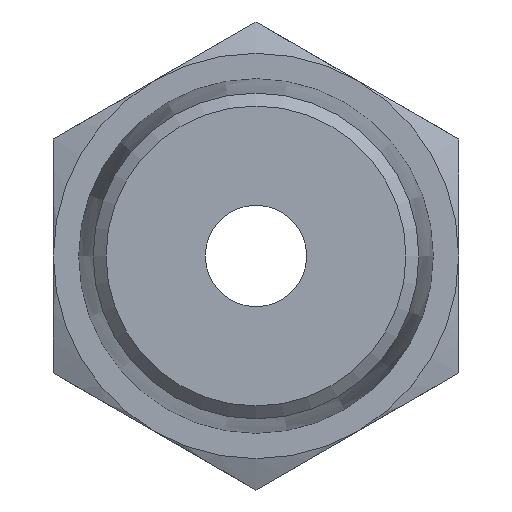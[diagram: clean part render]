
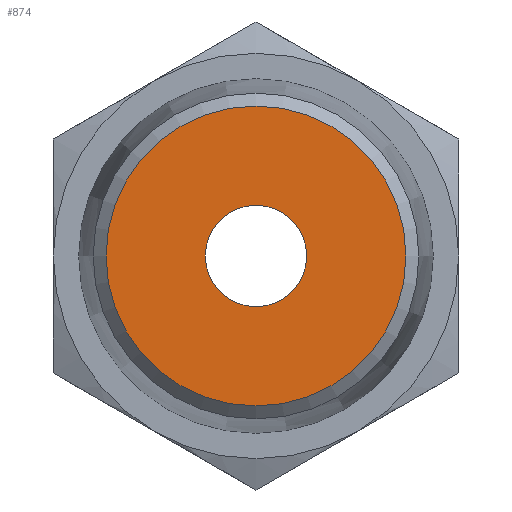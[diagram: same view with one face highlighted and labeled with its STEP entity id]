
A CAD part, front view. The second image highlights one B-rep face of the part: STEP entity #874.
In plain terms, the highlighted planar face has unit normal (0, -1, 0).
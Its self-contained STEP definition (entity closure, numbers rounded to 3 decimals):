
#33=FACE_BOUND('',#161,.T.);
#103=FACE_OUTER_BOUND('',#160,.T.);
#160=EDGE_LOOP('',(#680));
#161=EDGE_LOOP('',(#681));
#206=CIRCLE('',#958,1.25);
#218=CIRCLE('',#976,3.7);
#402=VERTEX_POINT('',#1434);
#413=VERTEX_POINT('',#1466);
#499=EDGE_CURVE('',#402,#402,#206,.T.);
#515=EDGE_CURVE('',#413,#413,#218,.T.);
#680=ORIENTED_EDGE('',*,*,#515,.F.);
#681=ORIENTED_EDGE('',*,*,#499,.T.);
#837=PLANE('',#977);
#874=ADVANCED_FACE('',(#103,#33),#837,.T.);
#958=AXIS2_PLACEMENT_3D('',#1435,#1136,#1137);
#976=AXIS2_PLACEMENT_3D('',#1468,#1176,#1177);
#977=AXIS2_PLACEMENT_3D('',#1469,#1178,#1179);
#1136=DIRECTION('center_axis',(0.,1.,0.));
#1137=DIRECTION('ref_axis',(1.,0.,0.));
#1176=DIRECTION('center_axis',(0.,1.,0.));
#1177=DIRECTION('ref_axis',(-1.,0.,0.));
#1178=DIRECTION('center_axis',(0.,-1.,0.));
#1179=DIRECTION('ref_axis',(0.,0.,-1.));
#1434=CARTESIAN_POINT('',(-1.25,-6.5,0.));
#1435=CARTESIAN_POINT('Origin',(0.,-6.5,0.));
#1466=CARTESIAN_POINT('',(3.7,-6.5,0.));
#1468=CARTESIAN_POINT('Origin',(0.,-6.5,0.));
#1469=CARTESIAN_POINT('Origin',(4.,-6.5,0.));
